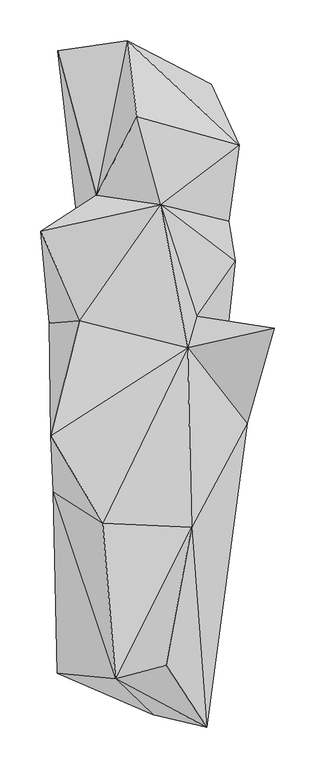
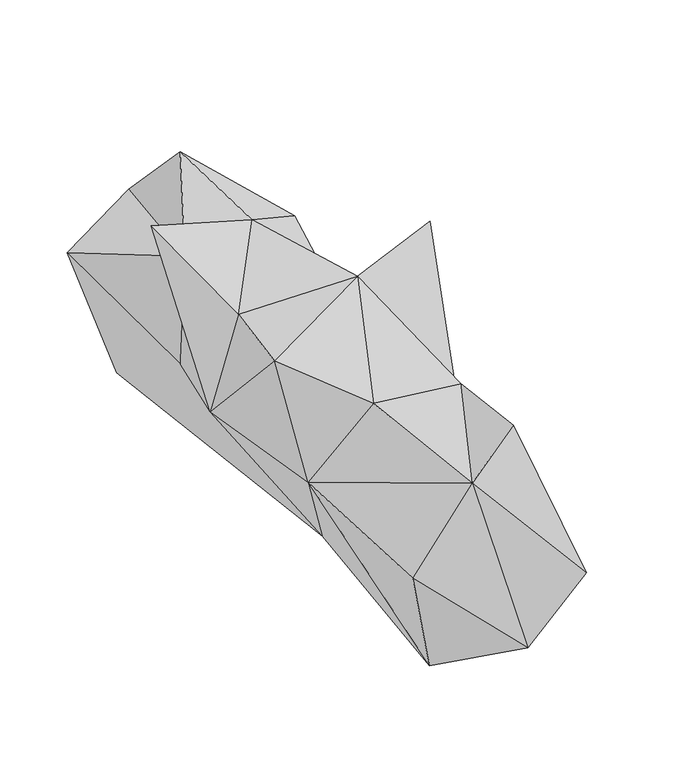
"""IFC4 building model written with IfcOpenShell, lengths in millimetres: geographic element geometry, Enscape AssetDefinition - Potted Plant 250 Snake Plant : Enscape AssetDefinition - Potted Plant 250 Snake Plant 9."""

import ifcopenshell
import ifcopenshell.guid

model = None  # the IFC model being written
_history = None  # IfcOwnerHistory: only IFC2X3 demands one
_inside = {}  # id of a spatial element -> (the spatial element, [elements in it])
_under = {}  # id of a project, library or spatial element -> (it, [spatial elements below it])
_declared = {}  # id of a project -> (the project, [libraries it declares])
_typed = {}  # id of a type object -> (the type object, [elements of that type])
_made_of = {}  # id of a material, layer set ... -> (it, [elements and type objects made of it])


def new_model(schema):
    """Start an empty IFC model of exactly this schema.

    Asked for "IFC4X3", IfcOpenShell would pick the latest addendum, in which some entities
    have other attributes; the version numbers below select the first issue.
    IFC2X3 requires an IfcOwnerHistory on every rooted entity: one is made here for all.
    """
    global model, _history
    if schema == "IFC4X3":
        model = ifcopenshell.file(schema_version=(4, 3, 0, 0))
    else:
        model = ifcopenshell.file(schema=schema)
    _inside.clear()
    _under.clear()
    _declared.clear()
    _typed.clear()
    _made_of.clear()
    _history = None
    if model.schema == "IFC2X3":
        org = make("IfcOrganization", Name="unknown")
        user = make(
            "IfcPersonAndOrganization",
            ThePerson=make("IfcPerson", FamilyName="unknown"),
            TheOrganization=org,
        )
        app = make(
            "IfcApplication",
            ApplicationDeveloper=org,
            Version="unknown",
            ApplicationFullName="unknown",
            ApplicationIdentifier="unknown",
        )
        _history = make(
            "IfcOwnerHistory",
            OwningUser=user,
            OwningApplication=app,
            ChangeAction="ADDED",
            CreationDate=0,
        )
    return model


def make(cls, **values):
    """One entity of the class cls with the attributes given. An attribute that is None is left unset."""
    return model.create_entity(
        cls, **{name: value for name, value in values.items() if value is not None}
    )


def rooted(cls, **values):
    """An entity with a GlobalId (a new one), such as an element, a storey or a relation."""
    return make(cls, GlobalId=ifcopenshell.guid.new(), OwnerHistory=_history, **values)


def si_unit(unit_type, name, prefix=None):
    """IfcSIUnit, for example si_unit("LENGTHUNIT", "METRE", prefix="MILLI")."""
    return make("IfcSIUnit", UnitType=unit_type, Prefix=prefix, Name=name)


def assignment(units):
    """IfcUnitAssignment: the units of a project."""
    return None if units is None else make("IfcUnitAssignment", Units=units)


def point(xyz):
    """IfcCartesianPoint."""
    return None if xyz is None else make("IfcCartesianPoint", Coordinates=xyz)


def direction(xyz):
    """IfcDirection."""
    return None if xyz is None else make("IfcDirection", DirectionRatios=xyz)


def frame(location, z_axis=None, x_axis=None):
    """IfcAxis2Placement3D, a coordinate frame: its origin and axes. An axis left out is left unset."""
    return make(
        "IfcAxis2Placement3D",
        Location=point(location),
        Axis=direction(z_axis),
        RefDirection=direction(x_axis),
    )


def origin():
    """The frame at (0, 0, 0) with its axes left unset."""
    return frame((0.0, 0.0, 0.0))


def place(relative_to, where):
    """IfcLocalPlacement: puts the frame where relative to a parent placement (None: the world)."""
    return make(
        "IfcLocalPlacement", PlacementRelTo=relative_to, RelativePlacement=where
    )


def context(
    kind, dimensions, precision=None, world=None, true_north=None, identifier=None
):
    """IfcGeometricRepresentationContext, for example the 3D "Model" context."""
    return make(
        "IfcGeometricRepresentationContext",
        ContextIdentifier=identifier,
        ContextType=kind,
        CoordinateSpaceDimension=dimensions,
        Precision=precision,
        WorldCoordinateSystem=world,
        TrueNorth=true_north,
    )


def project(units=None, contexts=None):
    """IfcProject with its units and contexts."""
    return rooted(
        "IfcProject",
        Name="project",
        RepresentationContexts=contexts,
        UnitsInContext=assignment(units),
    )


def spatial(cls, under=None, at=None, **own):
    """A site, building, storey or space (cls), placed at a placement, below another one or the project."""
    s = rooted(cls, ObjectPlacement=at, **own)
    if under is not None:
        _under.setdefault(under.id(), (under, []))[1].append(s)
    return s


def point_list(points):
    """IfcCartesianPointList2D or 3D."""
    cls = (
        "IfcCartesianPointList2D" if len(points[0]) == 2 else "IfcCartesianPointList3D"
    )
    return make(cls, CoordList=points)


def triangles(points, corners, closed=None, point_numbers=None):
    """IfcTriangulatedFaceSet: each triangle names its three corners, points numbered from 1."""
    return make(
        "IfcTriangulatedFaceSet",
        Coordinates=point_list(points),
        Closed=closed,
        CoordIndex=corners,
        PnIndex=point_numbers,
    )


def shape(context_of_items, identifier, shape_type, items):
    """IfcShapeRepresentation: the items that make up one representation, for example the "Body"."""
    return make(
        "IfcShapeRepresentation",
        ContextOfItems=context_of_items,
        RepresentationIdentifier=identifier,
        RepresentationType=shape_type,
        Items=items,
    )


def source(mapping_origin, context_of_items, identifier, shape_type, items):
    """IfcRepresentationMap: a shape defined once, which mapped items show again and again."""
    return make(
        "IfcRepresentationMap",
        MappingOrigin=mapping_origin,
        MappedRepresentation=shape(context_of_items, identifier, shape_type, items),
    )


def transform(
    local_origin,
    x_axis=None,
    y_axis=None,
    z_axis=None,
    scale=None,
    scale2=None,
    scale3=None,
    uniform=True,
):
    """IfcCartesianTransformationOperator3D, or its non-uniform kind. x_axis, y_axis, z_axis: its Axis1, 2, 3."""
    if uniform:
        return make(
            "IfcCartesianTransformationOperator3D",
            Axis1=direction(x_axis),
            Axis2=direction(y_axis),
            LocalOrigin=point(local_origin),
            Scale=scale,
            Axis3=direction(z_axis),
        )
    return make(
        "IfcCartesianTransformationOperator3DnonUniform",
        Axis1=direction(x_axis),
        Axis2=direction(y_axis),
        LocalOrigin=point(local_origin),
        Scale=scale,
        Axis3=direction(z_axis),
        Scale2=scale2,
        Scale3=scale3,
    )


def mapped(mapping_source, mapping_target):
    """IfcMappedItem: shows the shape of a source again, moved by a transform."""
    return make(
        "IfcMappedItem", MappingSource=mapping_source, MappingTarget=mapping_target
    )


def made_of(thing, what):
    """Note that an element or type object is made of a material, layer set ...; save() writes the relation."""
    if what is not None:
        _made_of.setdefault(what.id(), (what, []))[1].append(thing)
    return thing


def element(
    cls,
    number,
    at=None,
    inside=None,
    cuts=None,
    type_object=None,
    material=None,
    context=None,
    identifier="Body",
    shape_type=None,
    held_by="IfcProductDefinitionShape",
    body=None,
    shapes=None,
    **own,
):
    """One element of the class cls, such as IfcWall. Its Tag is "e" and its number.

    at: its placement. inside: the storey or other place that contains it. cuts: it is an
    opening in that element (IfcRelVoidsElement). A single representation is given by context,
    identifier, shape_type and body (its items); several are given by shapes. held_by: the class
    of the entity that holds the representations. save() writes the other relations.
    """
    e = rooted(cls, Tag="e%d" % number, ObjectPlacement=at, **own)
    if body is not None:
        shapes = [shape(context, identifier, shape_type, body)]
    if shapes is not None:
        e.Representation = make(held_by, Representations=shapes)
    if inside is not None:
        _inside.setdefault(inside.id(), (inside, []))[1].append(e)
    if cuts is not None:
        rooted(
            "IfcRelVoidsElement", RelatingBuildingElement=cuts, RelatedOpeningElement=e
        )
    if type_object is not None:
        _typed.setdefault(type_object.id(), (type_object, []))[1].append(e)
    return made_of(e, material)


def aggregate(whole, parts):
    """IfcRelAggregates: a whole, such as a stair, and the parts it consists of."""
    return rooted("IfcRelAggregates", RelatingObject=whole, RelatedObjects=parts)


def save(model, path):
    """Write the relations noted so far, then the file.

    IfcRelAggregates (storeys below a building ...), IfcRelContainedInSpatialStructure (elements
    in a storey), IfcRelDefinesByType, IfcRelAssociatesMaterial and IfcRelDeclares: one each for
    every whole, place, type object, material and project.
    """
    for whole, parts in _under.values():
        aggregate(whole, parts)
    for where, things in _inside.values():
        rooted(
            "IfcRelContainedInSpatialStructure",
            RelatedElements=things,
            RelatingStructure=where,
        )
    for kind, things in _typed.values():
        rooted("IfcRelDefinesByType", RelatedObjects=things, RelatingType=kind)
    for what, things in _made_of.values():
        rooted("IfcRelAssociatesMaterial", RelatedObjects=things, RelatingMaterial=what)
    for by, libraries in _declared.values():
        rooted("IfcRelDeclares", RelatingContext=by, RelatedDefinitions=libraries)
    model.write(path)


def geographic_element_a34aaa63(model_context):
    return source(origin(), model_context, "Body", "Tessellation", [
        triangles([(-9.3012906, 336.632868, 272.0916767), (-21.1345158, 429.3504281, 169.9621184), (81.646261, 376.3704861, 35.0057893), (17.0752818, 329.7299827, 0.0), (-59.0430167, 240.356895, 207.9276971), (103.4007289, 208.4637836, 142.8464679), (116.1204557, 301.5268168, 163.4290325), (85.0875298, 223.6384751, 49.9278663), (44.26241, -43.1972225, 0.0), (19.8722722, 228.8790527, 236.1110241), (64.2974834, 92.1973884, 172.6920935), (111.1970553, 159.7440285, 141.3171827), (91.943752, -13.7868958, 88.3625116), (158.7240326, 77.5036359, 277.452832), (125.5562624, -39.0640309, 127.6742382), (57.8060919, -166.1739049, 241.7218735), (76.0612185, -410.8833867, 130.3768984), (84.5638699, -306.7758242, 0.0), (10.4841155, -395.5840662, 43.2845809), (26.5825639, -335.339851, 300.0000023), (-50.844144, -161.49721, 251.3289361), (-106.5848823, -344.8937737, 146.7756522), (-35.0742876, -351.927683, 253.3342461), (-47.9046977, -43.7640665, 0.0), (-2.0286236, -299.6823436, 0.0), (-81.4516871, -338.0549469, 16.0324289), (-111.7718476, -122.9856163, 143.0886861), (53.1859705, 53.4912344, 254.9419423), (-114.7336309, -54.4099965, 265.5223466), (-79.0726444, 86.8858394, 229.9333488), (-116.7602604, 83.81536, 114.061052), (-82.4846182, 209.7533124, 89.9389506), (-126.8646582, 195.9679075, 299.3090561), (-87.1583427, 341.5388912, 0.0), (-106.1128362, 417.1464492, 121.7576117)], [[4, 9, 24], [34, 4, 24], [4, 34, 35], [35, 34, 32], [24, 32, 34], [5, 35, 32], [5, 33, 10], [28, 10, 30], [33, 30, 10], [31, 33, 5], [24, 31, 32], [31, 5, 32], [30, 33, 31], [29, 30, 31], [28, 30, 29], [28, 29, 21], [27, 21, 29], [27, 29, 31], [27, 31, 24], [27, 26, 22], [27, 24, 26], [24, 25, 26], [24, 9, 25], [22, 26, 19], [26, 25, 19], [21, 27, 23], [22, 19, 23], [27, 22, 23], [16, 23, 20], [28, 21, 16], [16, 21, 23], [17, 16, 20], [17, 23, 19], [20, 23, 17], [18, 25, 9], [19, 25, 18], [17, 19, 18], [18, 15, 17], [15, 28, 16], [15, 16, 17], [28, 15, 14], [9, 15, 18], [15, 9, 13], [15, 13, 11], [14, 15, 11], [10, 28, 11], [11, 28, 14], [12, 11, 13], [12, 13, 9], [12, 10, 11], [6, 10, 12], [4, 8, 9], [6, 12, 8], [8, 12, 9], [8, 4, 3], [7, 10, 6], [7, 6, 8], [8, 3, 7], [1, 10, 7], [5, 10, 1], [2, 7, 3], [4, 35, 2], [5, 2, 35], [5, 1, 2], [2, 3, 4], [2, 1, 7]]),
    ])


if __name__ == "__main__":
    model = new_model("IFC4")
    model_context = context("Model", 3, world=origin())
    ifc_project = project(units=[si_unit("LENGTHUNIT", "METRE", prefix="MILLI")], contexts=[model_context])
    site = spatial("IfcSite", under=ifc_project)
    building = spatial("IfcBuilding", under=site)
    placement = place(None, origin())
    geographic_element_shape = geographic_element_a34aaa63(model_context)
    element("IfcGeographicElement", 1, ObjectType="Enscape AssetDefinition - Potted Plant 250 Snake Plant : Enscape AssetDefinition - Potted Plant 250 Snake Plant 9", at=placement, inside=building, context=model_context, shape_type="MappedRepresentation", body=[
        mapped(geographic_element_shape, transform((0.0, 0.0, 0.0), x_axis=(1.0, 0.0, 0.0), y_axis=(0.0, 1.0, 0.0), z_axis=(0.0, 0.0, 1.0))),
    ])
    save(model, "model.ifc")
